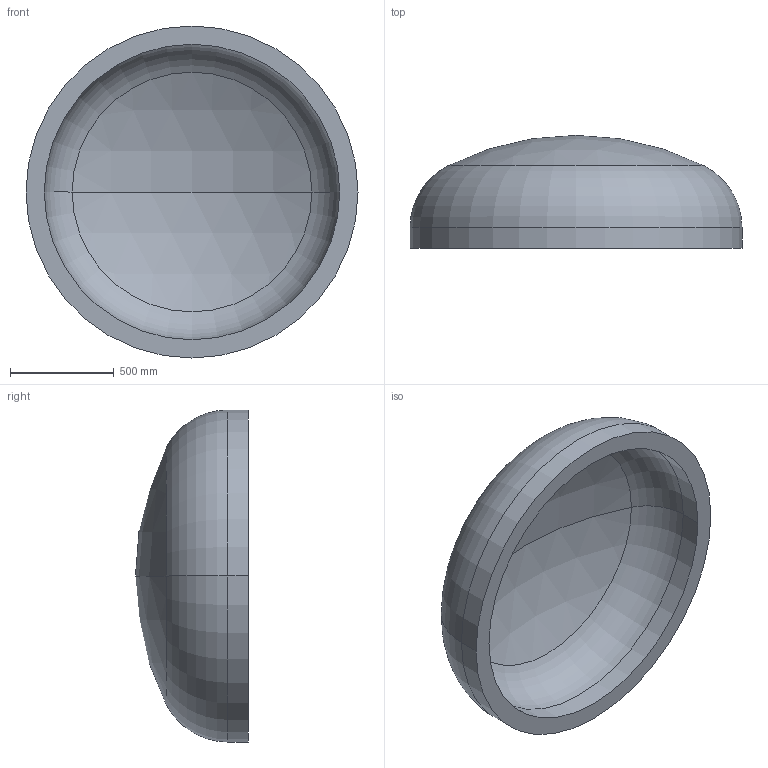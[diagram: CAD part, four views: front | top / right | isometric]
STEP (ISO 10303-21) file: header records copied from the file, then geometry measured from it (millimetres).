
FILE_DESCRIPTION (( 'STEP AP203' ), '1' );
FILE_NAME ('DIN 28013 Korbbogenform_-_Boden DIN 28013 - 1600 x 100 - I - s=88.step', '2016-07-01T11:27:26', ( '' ), ( '' ), 'SwSTEP 2.0', 'SolidWorks 2013', '' );
FILE_SCHEMA (( 'CONFIG_CONTROL_DESIGN' ));
Length unit declared in the file: millimetre
Products named in the file (1): DIN 28013 Korbbogenform_-_Boden DIN 28013 - 1600 x 100 - I - s=88
Bounding box: 1600 x 544.35 x 1600 mm (x, y, z)
Volume: 269929421.9 mm3; surface area: 6568984.8 mm2
Topology: 1 solids, 1 shells, 13 faces, 24 edges, 14 vertices
Faces by surface type: torus 4, cylinder 4, sphere 4, plane 1
Entity records: 407 total; most frequent: DIRECTION 72, CARTESIAN_POINT 52, ORIENTED_EDGE 48, AXIS2_PLACEMENT_3D 34, EDGE_CURVE 24, CIRCLE 20, VERTEX_POINT 14, EDGE_LOOP 14
